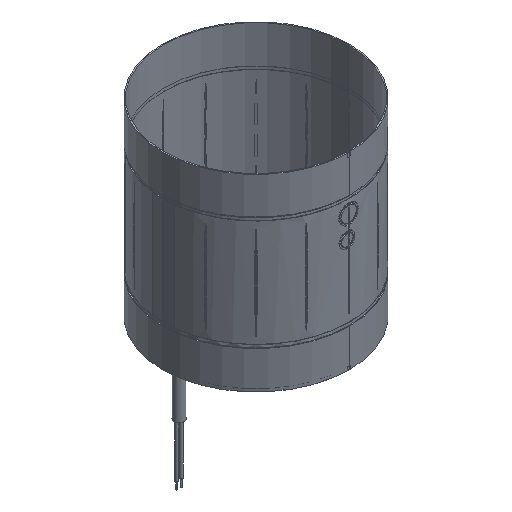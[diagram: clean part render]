
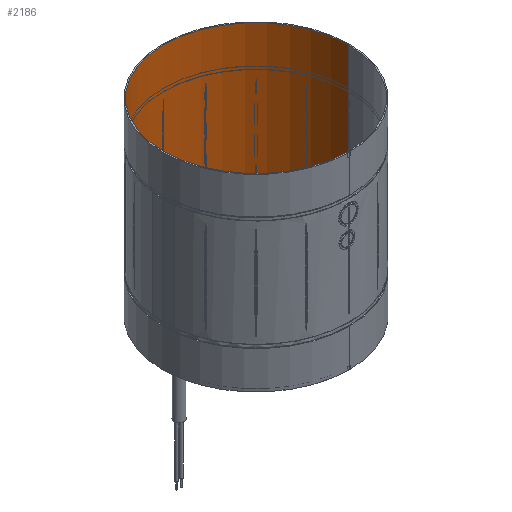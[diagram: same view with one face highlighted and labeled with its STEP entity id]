
A CAD part, isometric view. The second image highlights one B-rep face of the part: STEP entity #2186.
In plain terms, the highlighted cylindrical face has radius 61.25 mm (diameter 122.5 mm), a partial arc.
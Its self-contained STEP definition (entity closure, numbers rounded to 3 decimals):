
#1031 = EDGE_LOOP ( 'NONE', ( #1182, #1169, #1162, #1170 ) ) ;
#1162 = ORIENTED_EDGE ( 'NONE', *, *, #7212, .T. ) ;
#1169 = ORIENTED_EDGE ( 'NONE', *, *, #7459, .F. ) ;
#1170 = ORIENTED_EDGE ( 'NONE', *, *, #7292, .T. ) ;
#1182 = ORIENTED_EDGE ( 'NONE', *, *, #7399, .F. ) ;
#2186 = ADVANCED_FACE ( 'NONE', ( #3163 ), #3024, .F. ) ;
#2364 = CARTESIAN_POINT ( 'NONE',  ( 0., 0., 35.131 ) ) ;
#2432 = DIRECTION ( 'NONE',  ( 0., 0., 1. ) ) ;
#2433 = DIRECTION ( 'NONE',  ( 1., 0., 0. ) ) ;
#2822 = VERTEX_POINT ( 'NONE', #7653 ) ;
#2831 = LINE ( 'NONE', #9114, #2930 ) ;
#2834 = CIRCLE ( 'NONE', #7901, 61.25 ) ;
#2930 = VECTOR ( 'NONE', #9412, 1000. ) ;
#3024 = CYLINDRICAL_SURFACE ( 'NONE', #7907, 61.25 ) ;
#3041 = LINE ( 'NONE', #4579, #3114 ) ;
#3114 = VECTOR ( 'NONE', #4619, 1000. ) ;
#3160 = VERTEX_POINT ( 'NONE', #8708 ) ;
#3163 = FACE_OUTER_BOUND ( 'NONE', #1031, .T. ) ;
#3222 = CIRCLE ( 'NONE', #7793, 61.25 ) ;
#3327 = VERTEX_POINT ( 'NONE', #8718 ) ;
#3361 = VERTEX_POINT ( 'NONE', #8840 ) ;
#4579 = CARTESIAN_POINT ( 'NONE',  ( 61.25, 0., 35.131 ) ) ;
#4619 = DIRECTION ( 'NONE',  ( 0., 0., 1. ) ) ;
#4620 = CARTESIAN_POINT ( 'NONE',  ( 0., 0., 158.631 ) ) ;
#4672 = DIRECTION ( 'NONE',  ( 0., -1., 0. ) ) ;
#4799 = DIRECTION ( 'NONE',  ( 0., 0., 1. ) ) ;
#6389 = DIRECTION ( 'NONE',  ( 0., 0., 1. ) ) ;
#6406 = CARTESIAN_POINT ( 'NONE',  ( 0., 0., 35.131 ) ) ;
#6658 = DIRECTION ( 'NONE',  ( 1., 0., 0. ) ) ;
#7212 = EDGE_CURVE ( 'NONE', #3160, #3361, #3041, .T. ) ;
#7292 = EDGE_CURVE ( 'NONE', #3361, #3327, #3222, .T. ) ;
#7399 = EDGE_CURVE ( 'NONE', #2822, #3327, #2831, .T. ) ;
#7459 = EDGE_CURVE ( 'NONE', #3160, #2822, #2834, .T. ) ;
#7653 = CARTESIAN_POINT ( 'NONE',  ( -61.25, 0., 35.131 ) ) ;
#7793 = AXIS2_PLACEMENT_3D ( 'NONE', #4620, #4799, #4672 ) ;
#7901 = AXIS2_PLACEMENT_3D ( 'NONE', #2364, #2432, #2433 ) ;
#7907 = AXIS2_PLACEMENT_3D ( 'NONE', #6406, #6389, #6658 ) ;
#8708 = CARTESIAN_POINT ( 'NONE',  ( 61.25, 0., 35.131 ) ) ;
#8718 = CARTESIAN_POINT ( 'NONE',  ( -61.25, 0., 158.631 ) ) ;
#8840 = CARTESIAN_POINT ( 'NONE',  ( 61.25, 0., 158.631 ) ) ;
#9114 = CARTESIAN_POINT ( 'NONE',  ( -61.25, 0., 35.131 ) ) ;
#9412 = DIRECTION ( 'NONE',  ( 0., 0., 1. ) ) ;
